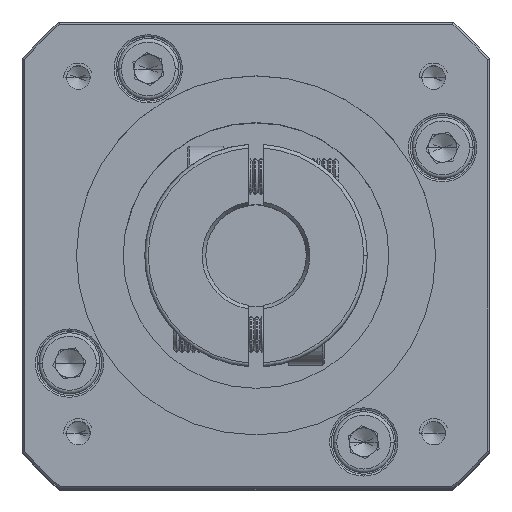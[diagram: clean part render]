
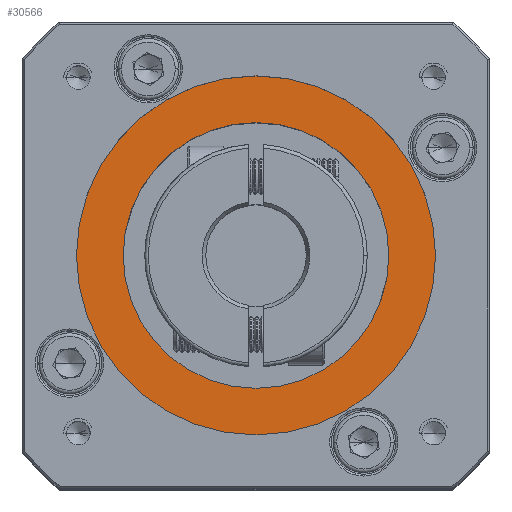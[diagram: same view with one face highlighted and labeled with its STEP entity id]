
A CAD part, top view. The second image highlights one B-rep face of the part: STEP entity #30566.
In plain terms, the highlighted planar face has unit normal (0, 0, 1).
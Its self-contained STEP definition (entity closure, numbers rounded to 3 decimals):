
#5977 = FACE_BOUND ( 'NONE', #76610, .T. ) ;
#8048 = DIRECTION ( 'NONE',  ( 0., 0., 1. ) ) ;
#13451 = CIRCLE ( 'NONE', #63406, 25. ) ;
#16251 = CARTESIAN_POINT ( 'NONE',  ( 15.384, 13.876, 148.65 ) ) ;
#18477 = CIRCLE ( 'NONE', #57912, 18.5 ) ;
#19589 = VERTEX_POINT ( 'NONE', #88816 ) ;
#22232 = CIRCLE ( 'NONE', #50866, 25. ) ;
#22673 = CARTESIAN_POINT ( 'NONE',  ( -3.116, 13.876, 148.65 ) ) ;
#24487 = DIRECTION ( 'NONE',  ( 1., 0., 0. ) ) ;
#27864 = FACE_OUTER_BOUND ( 'NONE', #72206, .T. ) ;
#30566 = ADVANCED_FACE ( 'NONE', ( #27864, #5977 ), #51814, .T. ) ;
#30775 = VERTEX_POINT ( 'NONE', #96291 ) ;
#35726 = CARTESIAN_POINT ( 'NONE',  ( 15.384, 13.876, 148.65 ) ) ;
#38867 = DIRECTION ( 'NONE',  ( 0., 0., -1. ) ) ;
#43896 = DIRECTION ( 'NONE',  ( 1., 0., 0. ) ) ;
#44404 = ORIENTED_EDGE ( 'NONE', *, *, #74756, .T. ) ;
#44794 = ORIENTED_EDGE ( 'NONE', *, *, #50159, .T. ) ;
#46078 = DIRECTION ( 'NONE',  ( 0., 0., -1. ) ) ;
#46267 = EDGE_CURVE ( 'NONE', #30775, #19589, #13451, .T. ) ;
#49332 = AXIS2_PLACEMENT_3D ( 'NONE', #35726, #93062, #43896 ) ;
#50159 = EDGE_CURVE ( 'NONE', #19589, #30775, #22232, .T. ) ;
#50866 = AXIS2_PLACEMENT_3D ( 'NONE', #16251, #73600, #24487 ) ;
#51814 = PLANE ( 'NONE',  #49332 ) ;
#52550 = CIRCLE ( 'NONE', #66752, 18.5 ) ;
#57200 = CARTESIAN_POINT ( 'NONE',  ( 15.384, 13.876, 148.65 ) ) ;
#57912 = AXIS2_PLACEMENT_3D ( 'NONE', #87983, #38867, #96299 ) ;
#58326 = ORIENTED_EDGE ( 'NONE', *, *, #98193, .T. ) ;
#63406 = AXIS2_PLACEMENT_3D ( 'NONE', #57200, #8048, #65462 ) ;
#65462 = DIRECTION ( 'NONE',  ( 1., 0., 0. ) ) ;
#66752 = AXIS2_PLACEMENT_3D ( 'NONE', #95273, #46078, #103526 ) ;
#72206 = EDGE_LOOP ( 'NONE', ( #85894, #44794 ) ) ;
#73600 = DIRECTION ( 'NONE',  ( 0., 0., 1. ) ) ;
#74756 = EDGE_CURVE ( 'NONE', #91413, #78576, #18477, .T. ) ;
#76610 = EDGE_LOOP ( 'NONE', ( #44404, #58326 ) ) ;
#78576 = VERTEX_POINT ( 'NONE', #22673 ) ;
#81777 = CARTESIAN_POINT ( 'NONE',  ( 33.884, 13.876, 148.65 ) ) ;
#85894 = ORIENTED_EDGE ( 'NONE', *, *, #46267, .T. ) ;
#87983 = CARTESIAN_POINT ( 'NONE',  ( 15.384, 13.876, 148.65 ) ) ;
#88816 = CARTESIAN_POINT ( 'NONE',  ( -9.616, 13.876, 148.65 ) ) ;
#91413 = VERTEX_POINT ( 'NONE', #81777 ) ;
#93062 = DIRECTION ( 'NONE',  ( 0., 0., 1. ) ) ;
#95273 = CARTESIAN_POINT ( 'NONE',  ( 15.384, 13.876, 148.65 ) ) ;
#96291 = CARTESIAN_POINT ( 'NONE',  ( 40.384, 13.876, 148.65 ) ) ;
#96299 = DIRECTION ( 'NONE',  ( 1., 0., 0. ) ) ;
#98193 = EDGE_CURVE ( 'NONE', #78576, #91413, #52550, .T. ) ;
#103526 = DIRECTION ( 'NONE',  ( 1., 0., 0. ) ) ;
